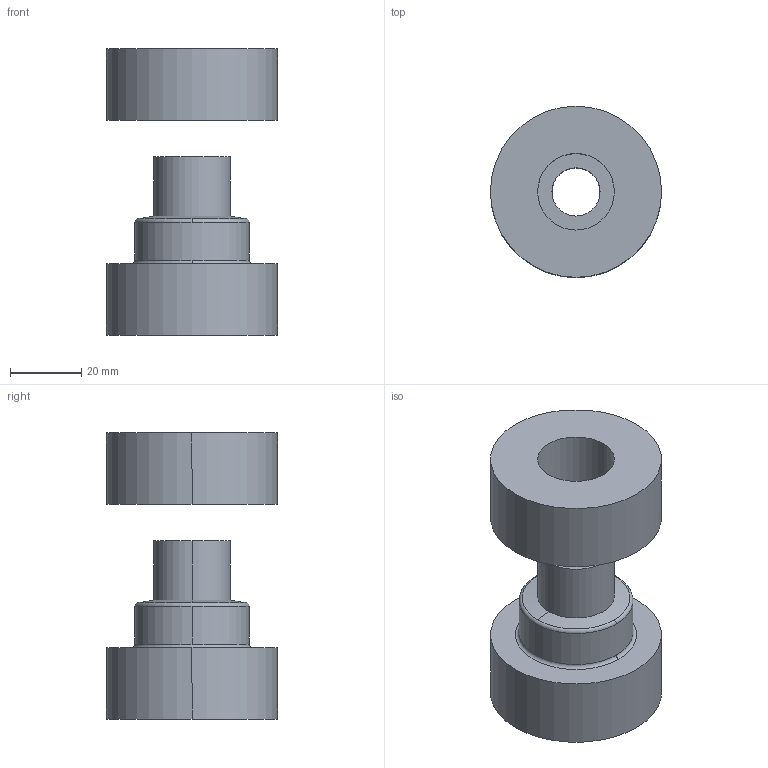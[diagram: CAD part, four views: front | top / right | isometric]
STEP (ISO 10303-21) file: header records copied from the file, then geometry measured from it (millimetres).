
FILE_DESCRIPTION(('STEP AP214'),'1');
FILE_NAME('C:/Transfer Dokumente/UMount_6002x_160226.stp','2026-02-16T11:54:03',(' '),(' '),'Spatial InterOp 3D',' ',' ');
FILE_SCHEMA(('automotive_design'));
Length unit declared in the file: millimetre
Products named in the file (2): 1; 2
Bounding box: 48 x 48 x 80.25 mm (x, y, z)
Volume: 74542.8 mm3; surface area: 18045.7 mm2
Topology: 2 solids, 2 shells, 23 faces, 53 edges, 35 vertices
Faces by surface type: cylinder 12, plane 5, torus 4, cone 2
Entity records: 716 total; most frequent: DIRECTION 142, CARTESIAN_POINT 113, ORIENTED_EDGE 106, AXIS2_PLACEMENT_3D 64, EDGE_CURVE 53, CIRCLE 39, VERTEX_POINT 35, EDGE_LOOP 28
